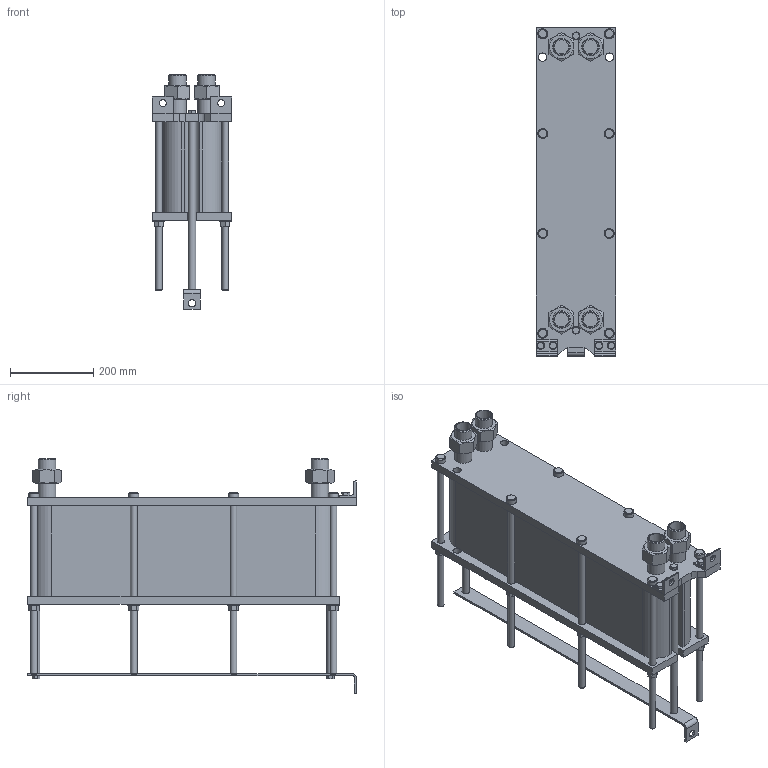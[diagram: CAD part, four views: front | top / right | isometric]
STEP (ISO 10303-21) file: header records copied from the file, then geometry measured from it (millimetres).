
FILE_DESCRIPTION(/* description */ (''),/* implementation_level */ '2;1');
FILE_NAME(/* name */ 'C:\Users\zhuro\Desktop\ENCO\TO\ЭН-008\ЭН-0,5-008-70-1.stp',/* time_stamp */ '2022-06-06T10:51:28+03:00',/* author */ ('zhuro'),/* organization */ (''),/* preprocessor_version */ 'ST-DEVELOPER v18.1',/* originating_system */ 'Autodesk Inventor 2022',/* authorisation */ '');
FILE_SCHEMA (('AUTOMOTIVE_DESIGN { 1 0 10303 214 3 1 1 }'));
Length unit declared in the file: millimetre
Products named in the file (1): ЭН-0,5-008-70-1
Bounding box: 190 x 790 x 565 mm (x, y, z)
Volume: 28964647.9 mm3; surface area: 1767759.9 mm2
Topology: 40 solids, 40 shells, 428 faces, 924 edges, 606 vertices
Faces by surface type: plane 273, cylinder 109, cone 40, torus 6
Full cylindrical faces by diameter (mm): 12 x6, 14 x2, 16 x20, 17 x8, 18 x19, 20 x5, 24 x8, 28 x8, 34.3 x8, 42.3 x8
Entity records: 15843 total; most frequent: CARTESIAN_POINT 5991, DIRECTION 1984, ORIENTED_EDGE 1848, EDGE_CURVE 924, AXIS2_PLACEMENT_3D 715, VERTEX_POINT 606, LINE 554, VECTOR 554
